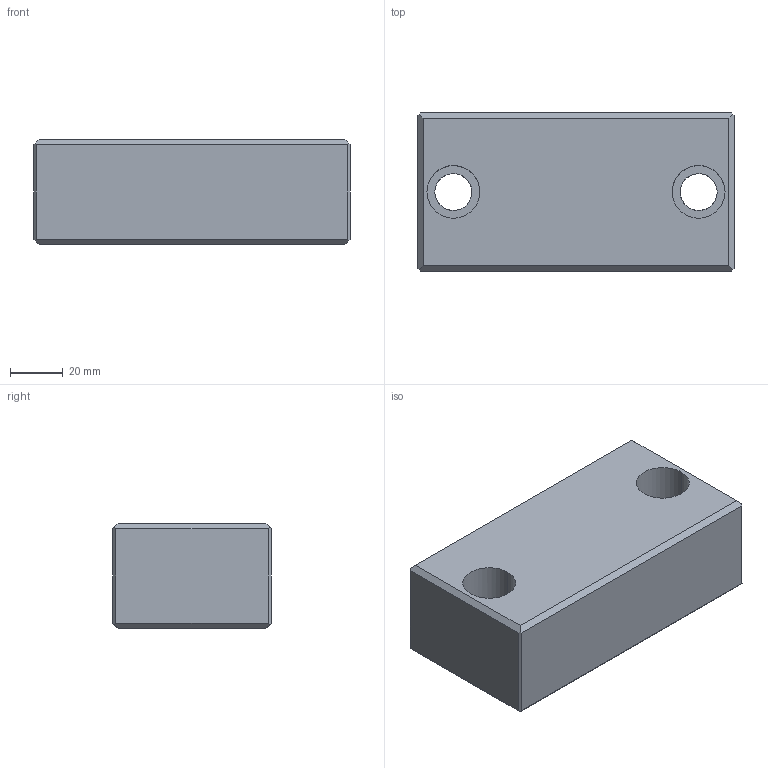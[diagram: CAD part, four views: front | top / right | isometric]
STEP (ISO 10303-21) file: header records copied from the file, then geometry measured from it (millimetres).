
FILE_DESCRIPTION(('CATIA V5 STEP Exchange'),'2;1');
FILE_NAME('C:\Users\Utente\Desktop\IO LAVORO\3D X SITO CF\X 3D SITO CF 27-09-2020\759\759+120+60+40+6.stp','2020-10-28T19:13:59+00:00',('none'),('none'),'CATIA Version 5 Release 20 GA (IN-10)','CATIA V5 STEP AP203','none');
FILE_SCHEMA(('CONFIG_CONTROL_DESIGN'));
Length unit declared in the file: millimetre
Products named in the file (1): 759+120+60+40+6
Bounding box: 120 x 60 x 40 mm (x, y, z)
Volume: 263298.6 mm3; surface area: 32040.6 mm2
Topology: 1 solids, 1 shells, 28 faces, 72 edges, 48 vertices
Faces by surface type: plane 20, cylinder 8
Entity records: 991 total; most frequent: CARTESIAN_POINT 264, ORIENTED_EDGE 144, DIRECTION 123, EDGE_CURVE 72, VECTOR 56, LINE 56, VERTEX_POINT 48, AXIS2_PLACEMENT_3D 40
